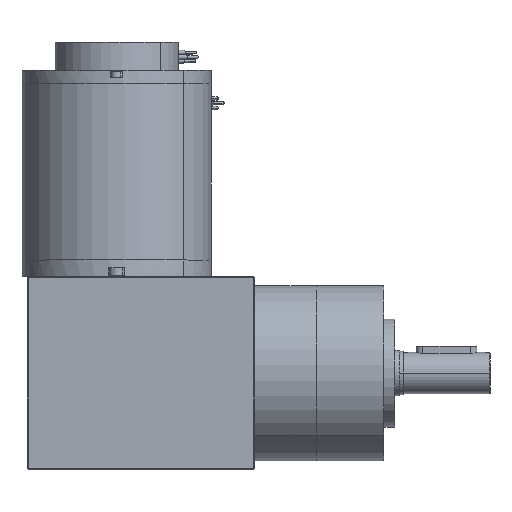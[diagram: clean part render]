
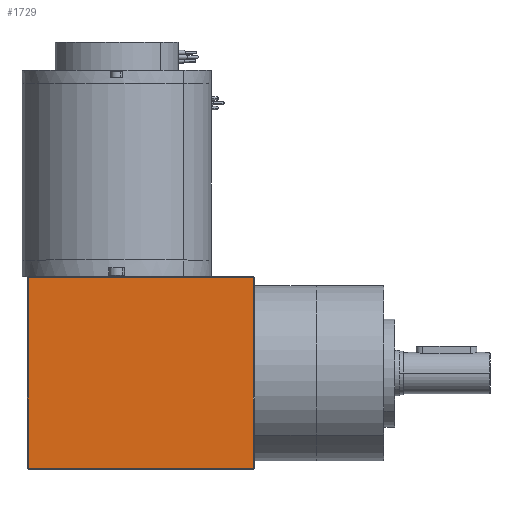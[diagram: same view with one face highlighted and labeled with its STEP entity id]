
A CAD part, top view. The second image highlights one B-rep face of the part: STEP entity #1729.
In plain terms, the highlighted planar face has unit normal (0, 0, 1).
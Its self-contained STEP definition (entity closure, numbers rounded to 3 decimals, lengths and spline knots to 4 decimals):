
#48 = ORIENTED_EDGE ( 'NONE', *, *, #45610, .T. ) ;
#939 = FACE_OUTER_BOUND ( 'NONE', #11254, .T. ) ;
#1729 = ADVANCED_FACE ( 'NONE', ( #939 ), #9787, .T. ) ;
#3012 = EDGE_CURVE ( 'NONE', #28983, #37192, #32895, .T. ) ;
#3141 = CARTESIAN_POINT ( 'NONE',  ( 1.4036, 1.9518, 5.8752 ) ) ;
#3692 = VECTOR ( 'NONE', #23127, 39.3701 ) ;
#9787 = PLANE ( 'NONE',  #18101 ) ;
#10522 = DIRECTION ( 'NONE',  ( -1., 0., 0. ) ) ;
#11254 = EDGE_LOOP ( 'NONE', ( #48, #18233, #16911, #53439 ) ) ;
#11338 = EDGE_CURVE ( 'NONE', #37192, #35769, #33736, .T. ) ;
#16064 = CARTESIAN_POINT ( 'NONE',  ( -2.6814, 1.9318, 5.8752 ) ) ;
#16911 = ORIENTED_EDGE ( 'NONE', *, *, #3012, .T. ) ;
#18101 = AXIS2_PLACEMENT_3D ( 'NONE', #36727, #23832, #27916 ) ;
#18233 = ORIENTED_EDGE ( 'NONE', *, *, #37674, .T. ) ;
#18246 = CARTESIAN_POINT ( 'NONE',  ( -2.6814, 5.4118, 5.8752 ) ) ;
#23127 = DIRECTION ( 'NONE',  ( 0., -1., 0. ) ) ;
#23832 = DIRECTION ( 'NONE',  ( 0., 0., 1. ) ) ;
#23836 = VECTOR ( 'NONE', #10522, 39.3701 ) ;
#25592 = CARTESIAN_POINT ( 'NONE',  ( 1.4036, 5.4318, 5.8752 ) ) ;
#27916 = DIRECTION ( 'NONE',  ( 1., 0., 0. ) ) ;
#28983 = VERTEX_POINT ( 'NONE', #36689 ) ;
#30331 = LINE ( 'NONE', #49727, #48579 ) ;
#32244 = DIRECTION ( 'NONE',  ( 1., 0., 0. ) ) ;
#32895 = LINE ( 'NONE', #37263, #23836 ) ;
#33736 = LINE ( 'NONE', #16064, #3692 ) ;
#35769 = VERTEX_POINT ( 'NONE', #51249 ) ;
#36689 = CARTESIAN_POINT ( 'NONE',  ( 1.4036, 5.4118, 5.8752 ) ) ;
#36727 = CARTESIAN_POINT ( 'NONE',  ( -0.6389, 3.6818, 5.8752 ) ) ;
#37192 = VERTEX_POINT ( 'NONE', #18246 ) ;
#37263 = CARTESIAN_POINT ( 'NONE',  ( -2.7014, 5.4118, 5.8752 ) ) ;
#37674 = EDGE_CURVE ( 'NONE', #43804, #28983, #38973, .T. ) ;
#38973 = LINE ( 'NONE', #25592, #39706 ) ;
#39706 = VECTOR ( 'NONE', #57126, 39.3701 ) ;
#43804 = VERTEX_POINT ( 'NONE', #3141 ) ;
#45610 = EDGE_CURVE ( 'NONE', #35769, #43804, #30331, .T. ) ;
#48579 = VECTOR ( 'NONE', #32244, 39.3701 ) ;
#49727 = CARTESIAN_POINT ( 'NONE',  ( 1.4236, 1.9518, 5.8752 ) ) ;
#51249 = CARTESIAN_POINT ( 'NONE',  ( -2.6814, 1.9518, 5.8752 ) ) ;
#53439 = ORIENTED_EDGE ( 'NONE', *, *, #11338, .T. ) ;
#57126 = DIRECTION ( 'NONE',  ( 0., 1., 0. ) ) ;
